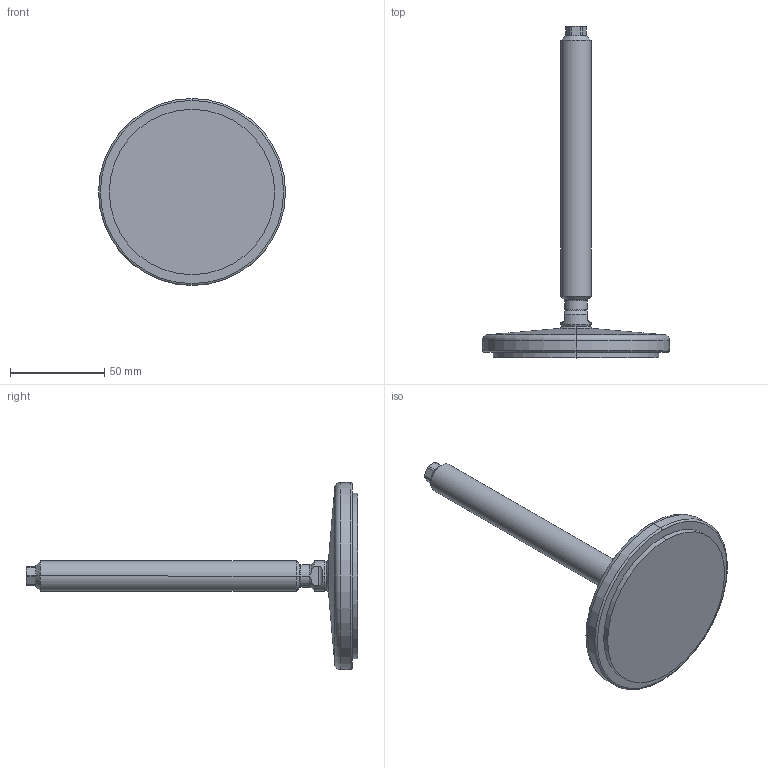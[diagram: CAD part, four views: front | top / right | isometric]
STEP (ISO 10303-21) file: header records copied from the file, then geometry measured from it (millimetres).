
FILE_DESCRIPTION (( 'STEP AP214' ), '1' );
FILE_NAME ('21-100-M16-150-D1-V.step', '2020-10-02T17:37:09', ( '' ), ( '' ), 'SwSTEP 2.0', 'SolidWorks 2019', '' );
FILE_SCHEMA (( 'AUTOMOTIVE_DESIGN' ));
Length unit declared in the file: millimetre
Products named in the file (3): 21-100-M16-150-D1-V; WB21_Fußteller 21^WB21_V_D1-100-R10-B7 (M8 M10_M12_M16); WB21_Spindel_V^WB21_V_M16-150
Assembly tree (2 placements, depth 2):
  21-100-M16-150-D1-V
    WB21_Fußteller 21^WB21_V_D1-100-R10-B7 (M8 M10_M12_M16)
    WB21_Spindel_V^WB21_V_M16-150
Bounding box: 99 x 175.64 x 99 mm (x, y, z)
Volume: 128438.1 mm3; surface area: 27126.2 mm2
Topology: 2 solids, 2 shells, 76 faces, 171 edges, 101 vertices
Faces by surface type: cylinder 25, plane 20, cone 17, torus 10, sphere 4
Entity records: 2391 total; most frequent: CARTESIAN_POINT 509, DIRECTION 390, ORIENTED_EDGE 342, EDGE_CURVE 171, AXIS2_PLACEMENT_3D 166, VERTEX_POINT 101, CIRCLE 85, EDGE_LOOP 78
